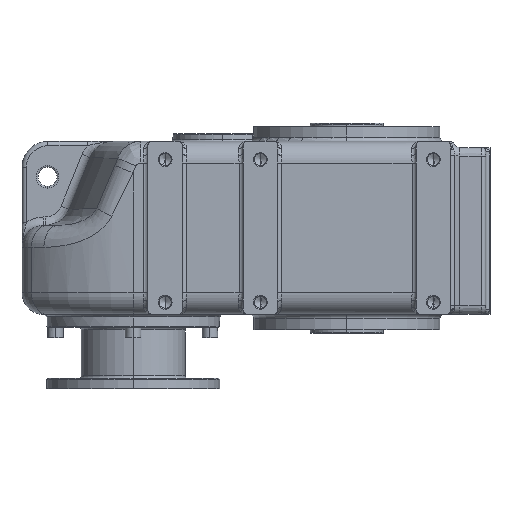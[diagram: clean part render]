
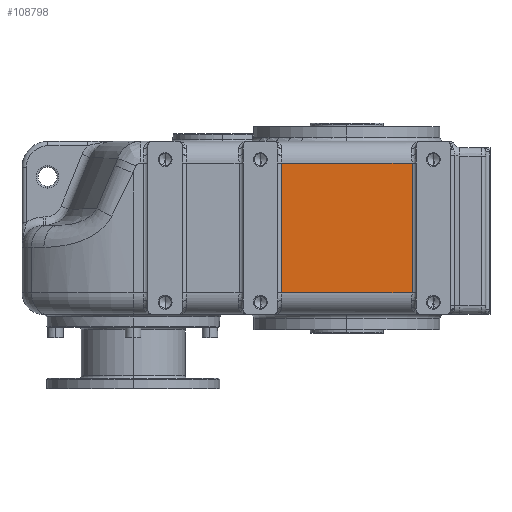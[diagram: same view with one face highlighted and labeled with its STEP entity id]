
A CAD part, left-side view. The second image highlights one B-rep face of the part: STEP entity #108798.
In plain terms, the highlighted planar face has unit normal (-1, 0, 0).
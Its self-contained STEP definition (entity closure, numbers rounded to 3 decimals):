
#42023 = CARTESIAN_POINT ( 'NONE',  ( -162., -75.417, 175. ) ) ;
#42024 = DIRECTION ( 'NONE',  ( 0., 1., 0. ) ) ;
#42025 = VECTOR ( 'NONE', #42024, 1000. ) ;
#42026 = CARTESIAN_POINT ( 'NONE',  ( -162., 85., 175. ) ) ;
#42027 = LINE ( 'NONE', #42026, #42025 ) ;
#42066 = LINE ( 'NONE', #42117, #42116 ) ;
#42077 = DIRECTION ( 'NONE',  ( 0., 1., 0. ) ) ;
#42078 = DIRECTION ( 'NONE',  ( 1., 0., 0. ) ) ;
#42079 = CARTESIAN_POINT ( 'NONE',  ( -162., 247., 200. ) ) ;
#42080 = AXIS2_PLACEMENT_3D ( 'NONE', #42079, #42078, #42077 ) ;
#42081 = PLANE ( 'NONE',  #42080 ) ;
#42082 = FACE_OUTER_BOUND ( 'NONE', #108806, .T. ) ;
#42085 = CARTESIAN_POINT ( 'NONE',  ( -162., -75.417, 25. ) ) ;
#42106 = CARTESIAN_POINT ( 'NONE',  ( -162., 75.417, 25. ) ) ;
#42114 = CARTESIAN_POINT ( 'NONE',  ( -162., 75.417, 175. ) ) ;
#42115 = DIRECTION ( 'NONE',  ( 0., 0., -1. ) ) ;
#42116 = VECTOR ( 'NONE', #42115, 1000. ) ;
#42117 = CARTESIAN_POINT ( 'NONE',  ( -162., 75.417, 200. ) ) ;
#42129 = DIRECTION ( 'NONE',  ( 0., -1., 0. ) ) ;
#42130 = VECTOR ( 'NONE', #42129, 1000. ) ;
#42131 = CARTESIAN_POINT ( 'NONE',  ( -162., 247., 25. ) ) ;
#42132 = LINE ( 'NONE', #42131, #42130 ) ;
#42178 = DIRECTION ( 'NONE',  ( 0., 0., 1. ) ) ;
#42179 = VECTOR ( 'NONE', #42178, 1000. ) ;
#42180 = CARTESIAN_POINT ( 'NONE',  ( -162., -75.417, 200. ) ) ;
#42181 = LINE ( 'NONE', #42180, #42179 ) ;
#108787 = ORIENTED_EDGE ( 'NONE', *, *, #108788, .T. ) ;
#108788 = EDGE_CURVE ( 'NONE', #108789, #108807, #42027, .T. ) ;
#108789 = VERTEX_POINT ( 'NONE', #42023 ) ;
#108796 = ORIENTED_EDGE ( 'NONE', *, *, #108846, .T. ) ;
#108798 = ADVANCED_FACE ( 'NONE', ( #42082 ), #42081, .F. ) ;
#108805 = EDGE_CURVE ( 'NONE', #108807, #108817, #42066, .T. ) ;
#108806 = EDGE_LOOP ( 'NONE', ( #108787, #108808, #108809, #108796 ) ) ;
#108807 = VERTEX_POINT ( 'NONE', #42114 ) ;
#108808 = ORIENTED_EDGE ( 'NONE', *, *, #108805, .T. ) ;
#108809 = ORIENTED_EDGE ( 'NONE', *, *, #108834, .T. ) ;
#108817 = VERTEX_POINT ( 'NONE', #42106 ) ;
#108827 = VERTEX_POINT ( 'NONE', #42085 ) ;
#108834 = EDGE_CURVE ( 'NONE', #108817, #108827, #42132, .T. ) ;
#108846 = EDGE_CURVE ( 'NONE', #108827, #108789, #42181, .T. ) ;
